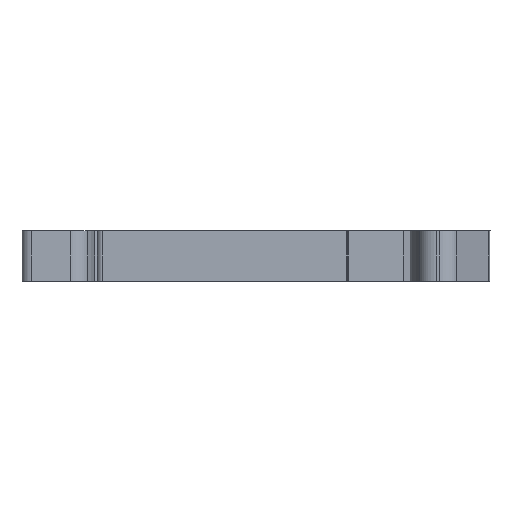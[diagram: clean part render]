
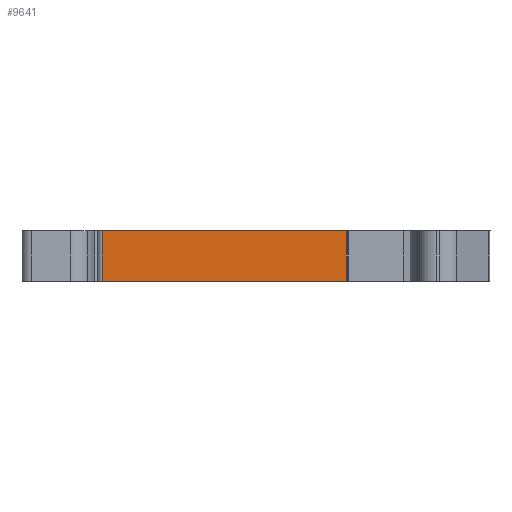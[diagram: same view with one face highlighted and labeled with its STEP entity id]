
A CAD part, front view. The second image highlights one B-rep face of the part: STEP entity #9641.
In plain terms, the highlighted planar face has unit normal (0, -1, 0).
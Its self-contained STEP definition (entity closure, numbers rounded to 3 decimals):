
#551=DIRECTION('',(1.,0.,0.));
#552=VECTOR('',#551,25.37);
#553=CARTESIAN_POINT('',(1904.191,1073.377,-2.6));
#554=LINE('',#553,#552);
#2043=DIRECTION('',(0.,0.,1.));
#2044=VECTOR('',#2043,5.2);
#2045=CARTESIAN_POINT('',(1929.562,1073.377,-2.6));
#2046=LINE('',#2045,#2044);
#2047=DIRECTION('',(1.,0.,0.));
#2048=VECTOR('',#2047,25.37);
#2049=CARTESIAN_POINT('',(1904.191,1073.377,2.6));
#2050=LINE('',#2049,#2048);
#2051=DIRECTION('',(0.,0.,-1.));
#2052=VECTOR('',#2051,5.2);
#2053=CARTESIAN_POINT('',(1904.191,1073.377,2.6));
#2054=LINE('',#2053,#2052);
#6610=CARTESIAN_POINT('',(1904.191,1073.377,-2.6));
#6611=VERTEX_POINT('',#6610);
#6612=CARTESIAN_POINT('',(1929.562,1073.377,-2.6));
#6613=VERTEX_POINT('',#6612);
#6878=CARTESIAN_POINT('',(1929.562,1073.377,2.6));
#6879=VERTEX_POINT('',#6878);
#6880=CARTESIAN_POINT('',(1904.191,1073.377,2.6));
#6881=VERTEX_POINT('',#6880);
#9629=CARTESIAN_POINT('',(1904.191,1073.377,2.6));
#9630=DIRECTION('',(0.,-1.,0.));
#9631=DIRECTION('',(1.,0.,0.));
#9632=AXIS2_PLACEMENT_3D('',#9629,#9630,#9631);
#9633=PLANE('',#9632);
#9634=ORIENTED_EDGE('',*,*,#9623,.F.);
#9635=ORIENTED_EDGE('',*,*,#8732,.F.);
#9637=ORIENTED_EDGE('',*,*,#9636,.F.);
#9638=ORIENTED_EDGE('',*,*,#9079,.T.);
#9639=EDGE_LOOP('',(#9634,#9635,#9637,#9638));
#9640=FACE_OUTER_BOUND('',#9639,.F.);
#9641=ADVANCED_FACE('',(#9640),#9633,.T.);
#8732=EDGE_CURVE('',#6611,#6613,#554,.T.);
#9079=EDGE_CURVE('',#6881,#6879,#2050,.T.);
#9623=EDGE_CURVE('',#6613,#6879,#2046,.T.);
#9636=EDGE_CURVE('',#6881,#6611,#2054,.T.);
